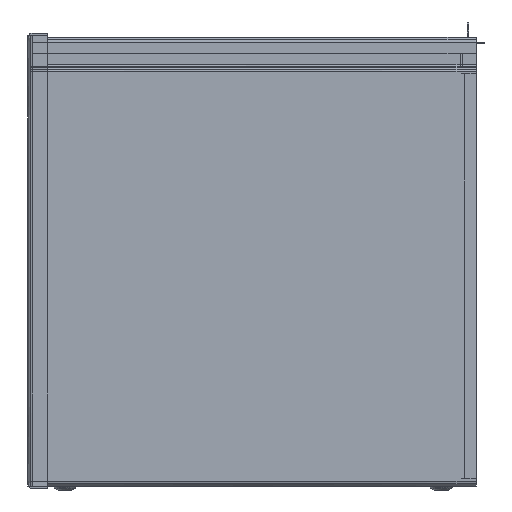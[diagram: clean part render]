
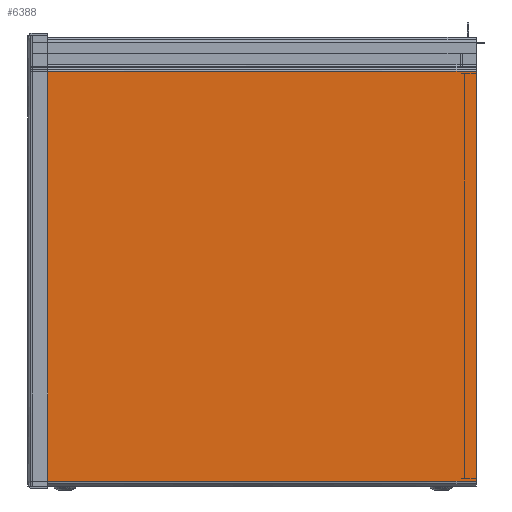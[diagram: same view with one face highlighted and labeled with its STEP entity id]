
A CAD part, left-side view. The second image highlights one B-rep face of the part: STEP entity #6388.
In plain terms, the highlighted free-form (B-spline) face has degree [1, 1] with [2, 2] control points.
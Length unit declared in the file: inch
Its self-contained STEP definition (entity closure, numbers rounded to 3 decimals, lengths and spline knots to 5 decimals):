
#6316=CARTESIAN_POINT('V66',(-0.072,0.08,
   0.));
#6317=VERTEX_POINT('V66',#6316);
#6331=CARTESIAN_POINT('V67',(-0.072,0.08,
   -14.));
#6332=VERTEX_POINT('V67',#6331);
#6333=CARTESIAN_POINT('E90',(-0.072,0.08,
   0.));
#6334=CARTESIAN_POINT('E90',(-0.072,0.08,
   -14.));
#6335=QUASI_UNIFORM_CURVE('E90',1,(#6333,#6334),.POLYLINE_FORM.,.F.,
   .U.);
#6336=EDGE_CURVE('E90',#6317,#6332,#6335,.T.);
#6361=CARTESIAN_POINT('F41',(-0.072,12.95386,
   0.));
#6362=CARTESIAN_POINT('F41',(-0.072,12.95386,
   -14.));
#6363=CARTESIAN_POINT('F41',(-0.072,0.08,
   0.));
#6364=CARTESIAN_POINT('F41',(-0.072,0.08,
   -14.));
#6365=B_SPLINE_SURFACE_WITH_KNOTS('F41',1,1,((#6361,#6363),(#6362,
   #6364)),.PLANE_SURF.,.F.,.F.,.U.,(2,2),(2,2),(
   0.00008,0.99992),(0.00009,
   0.99991),.UNSPECIFIED.);
#6366=CARTESIAN_POINT('V64',(-0.072,12.95386,
   -14.));
#6367=VERTEX_POINT('V64',#6366);
#6368=CARTESIAN_POINT('E107',(-0.072,12.95386,
   -14.));
#6369=CARTESIAN_POINT('E107',(-0.072,0.08,
   -14.));
#6370=QUASI_UNIFORM_CURVE('E107',1,(#6368,#6369),.POLYLINE_FORM.,.F.,
   .U.);
#6371=EDGE_CURVE('E107',#6367,#6332,#6370,.T.);
#6372=ORIENTED_EDGE('E107',*,*,#6371,.T.);
#6373=ORIENTED_EDGE('E90',*,*,#6336,.F.);
#6374=CARTESIAN_POINT('V61',(-0.072,12.95386,
   0.));
#6375=VERTEX_POINT('V61',#6374);
#6376=CARTESIAN_POINT('E108',(-0.072,0.08,
   0.0));
#6377=CARTESIAN_POINT('E108',(-0.072,12.95386,
   0.0));
#6378=QUASI_UNIFORM_CURVE('E108',1,(#6376,#6377),.POLYLINE_FORM.,.F.,
   .U.);
#6379=EDGE_CURVE('E108',#6317,#6375,#6378,.T.);
#6380=ORIENTED_EDGE('E108',*,*,#6379,.T.);
#6381=CARTESIAN_POINT('E88',(-0.072,12.95386,
   -14.));
#6382=CARTESIAN_POINT('E88',(-0.072,12.95386,
   0.));
#6383=QUASI_UNIFORM_CURVE('E88',1,(#6381,#6382),.POLYLINE_FORM.,.F.,
   .U.);
#6384=EDGE_CURVE('E88',#6367,#6375,#6383,.T.);
#6385=ORIENTED_EDGE('E88',*,*,#6384,.F.);
#6386=EDGE_LOOP('F41',(#6372,#6373,#6380,#6385));
#6387=FACE_OUTER_BOUND('F41',#6386,.T.);
#6388=ADVANCED_FACE('F41',(#6387),#6365,.T.);
